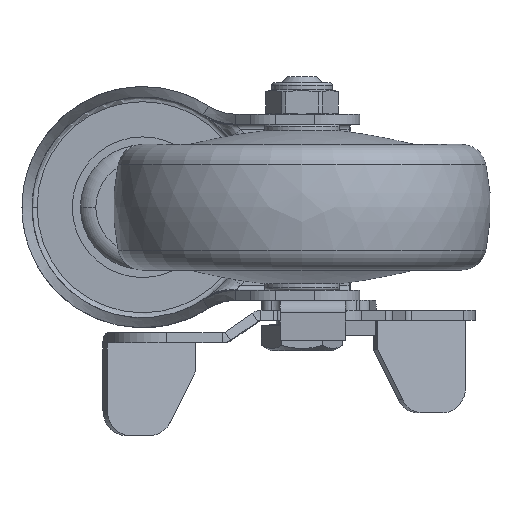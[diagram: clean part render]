
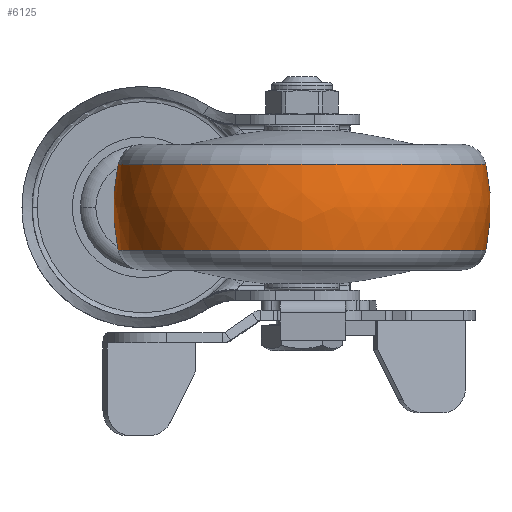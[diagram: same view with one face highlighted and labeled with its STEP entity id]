
A CAD part, front view. The second image highlights one B-rep face of the part: STEP entity #6125.
In plain terms, the highlighted free-form (B-spline) face has degree [3, 3] with [7, 4] control points.
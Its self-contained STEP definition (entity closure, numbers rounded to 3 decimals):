
#5829=CARTESIAN_POINT('',(0.,-2.5,0.));
#5830=DIRECTION('',(0.,0.,1.));
#5831=DIRECTION('',(0.214,0.977,0.));
#5832=AXIS2_PLACEMENT_3D('',#5829,#5830,#5831);
#5834=CARTESIAN_POINT('',(0.,2.5,0.));
#5835=DIRECTION('',(0.,0.,-1.));
#5836=DIRECTION('',(0.214,-0.977,0.));
#5837=AXIS2_PLACEMENT_3D('',#5834,#5835,#5836);
#5839=CARTESIAN_POINT('',(8.571,0.,0.));
#5840=DIRECTION('',(-1.,0.,0.));
#5841=DIRECTION('',(0.,1.,0.));
#5842=AXIS2_PLACEMENT_3D('',#5839,#5840,#5841);
#5864=CARTESIAN_POINT('',(-8.571,0.,0.));
#5865=DIRECTION('',(-1.,0.,0.));
#5866=DIRECTION('',(0.,1.,0.));
#5867=AXIS2_PLACEMENT_3D('',#5864,#5865,#5866);
#5882=CARTESIAN_POINT('',(8.571,36.571,0.));
#5884=VERTEX_POINT('',#5882);
#5885=CARTESIAN_POINT('',(-8.571,36.571,0.));
#5886=VERTEX_POINT('',#5885);
#5902=CARTESIAN_POINT('',(8.571,-36.571,0.));
#5904=VERTEX_POINT('',#5902);
#5905=CARTESIAN_POINT('',(-8.571,-36.571,0.));
#5906=VERTEX_POINT('',#5905);
#6087=CARTESIAN_POINT('',(-8.909,-36.423,
2.292));
#6088=CARTESIAN_POINT('',(-3.02,-37.766,
2.376));
#6089=CARTESIAN_POINT('',(3.02,-37.766,2.376));
#6090=CARTESIAN_POINT('',(8.909,-36.423,2.292));
#6091=CARTESIAN_POINT('',(-8.909,-37.834,
-20.123));
#6092=CARTESIAN_POINT('',(-3.02,-39.228,
-20.865));
#6093=CARTESIAN_POINT('',(3.02,-39.228,
-20.865));
#6094=CARTESIAN_POINT('',(8.909,-37.834,
-20.123));
#6095=CARTESIAN_POINT('',(-8.909,-22.459,
-36.495));
#6096=CARTESIAN_POINT('',(-3.02,-23.287,
-37.841));
#6097=CARTESIAN_POINT('',(3.02,-23.287,
-37.841));
#6098=CARTESIAN_POINT('',(8.909,-22.459,
-36.495));
#6099=CARTESIAN_POINT('',(-8.909,0.,-36.495));
#6100=CARTESIAN_POINT('',(-3.02,0.,-37.841));
#6101=CARTESIAN_POINT('',(3.02,0.,-37.841));
#6102=CARTESIAN_POINT('',(8.909,0.,
-36.495));
#6103=CARTESIAN_POINT('',(-8.909,22.459,
-36.495));
#6104=CARTESIAN_POINT('',(-3.02,23.287,
-37.841));
#6105=CARTESIAN_POINT('',(3.02,23.287,-37.841));
#6106=CARTESIAN_POINT('',(8.909,22.459,-36.495));
#6107=CARTESIAN_POINT('',(-8.909,37.834,
-20.123));
#6108=CARTESIAN_POINT('',(-3.02,39.228,
-20.865));
#6109=CARTESIAN_POINT('',(3.02,39.228,-20.865));
#6110=CARTESIAN_POINT('',(8.909,37.834,-20.123));
#6111=CARTESIAN_POINT('',(-8.909,36.423,2.292));
#6112=CARTESIAN_POINT('',(-3.02,37.766,2.376));
#6113=CARTESIAN_POINT('',(3.02,37.766,2.376));
#6114=CARTESIAN_POINT('',(8.909,36.423,2.292));
#6115=(BOUNDED_SURFACE()B_SPLINE_SURFACE(3,3,((#6087,#6088,#6089,#6090),(#6091,
#6092,#6093,#6094),(#6095,#6096,#6097,#6098),(#6099,#6100,#6101,#6102),(#6103,
#6104,#6105,#6106),(#6107,#6108,#6109,#6110),(#6111,#6112,#6113,#6114)),
.UNSPECIFIED.,.F.,.F.,.F.)B_SPLINE_SURFACE_WITH_KNOTS((4,3,4),(4,4),(0.,1.,
2.),(0.,1.),.UNSPECIFIED.)GEOMETRIC_REPRESENTATION_ITEM()RATIONAL_B_SPLINE_SURFACE(((1.202,1.182,1.182,1.202),(
0.95,0.934,0.934,0.95),(
0.95,0.934,0.934,0.95),(
1.202,1.182,1.182,1.202),(
0.95,0.934,0.934,0.95),(
0.95,0.934,0.934,0.95),(
1.202,1.182,1.182,1.202)))REPRESENTATION_ITEM('')SURFACE());
#6117=ORIENTED_EDGE('',*,*,#6116,.T.);
#6119=ORIENTED_EDGE('',*,*,#6118,.T.);
#6121=ORIENTED_EDGE('',*,*,#6120,.F.);
#6122=ORIENTED_EDGE('',*,*,#6080,.F.);
#6123=EDGE_LOOP('',(#6117,#6119,#6121,#6122));
#6124=FACE_OUTER_BOUND('',#6123,.F.);
#5833=CIRCLE('',#5832,40.);
#5838=CIRCLE('',#5837,40.);
#5843=CIRCLE('',#5842,36.571);
#5868=CIRCLE('',#5867,36.571);
#6080=EDGE_CURVE('',#5884,#5904,#5843,.T.);
#6116=EDGE_CURVE('',#5884,#5886,#5833,.T.);
#6118=EDGE_CURVE('',#5886,#5906,#5868,.T.);
#6120=EDGE_CURVE('',#5904,#5906,#5838,.T.);
#6125=ADVANCED_FACE('',(#6124),#6115,.T.);
